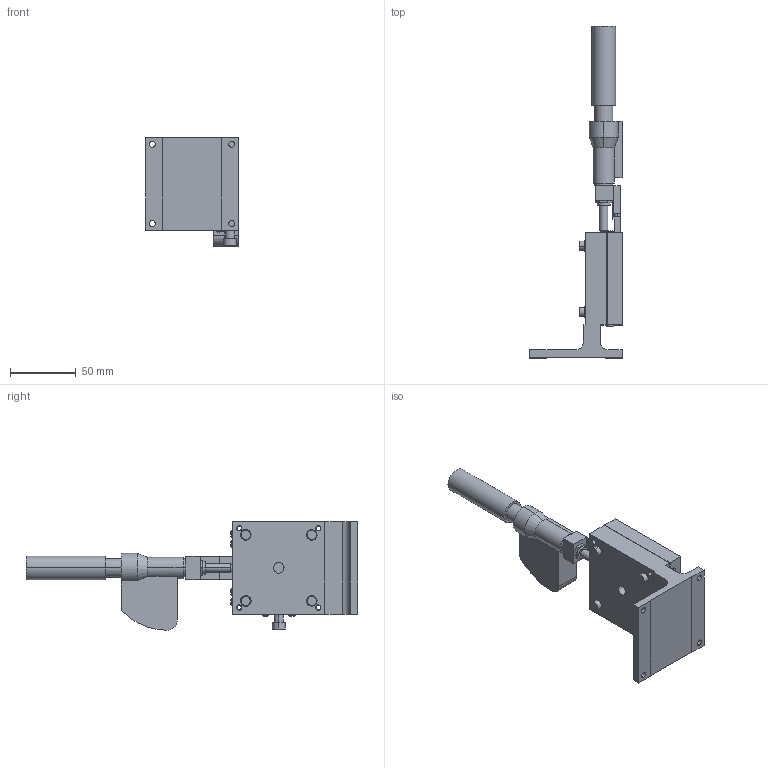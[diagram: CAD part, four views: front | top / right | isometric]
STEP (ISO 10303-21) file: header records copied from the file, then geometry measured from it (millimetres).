
FILE_DESCRIPTION (( 'STEP AP214' ), '1' );
FILE_NAME ('LZ‐7041‐CR7.STEP', '2007-08-30T11:23:50', ( '' ), ( '' ), 'SwSTEP 2.0', 'SolidWorks 2006303', '' );
FILE_SCHEMA (( 'AUTOMOTIVE_DESIGN' ));
Length unit declared in the file: millimetre
Products named in the file (3): LZ70B700‐2_ﾃﾞﾌｫﾙﾄ; LZ70B700‐1_ﾃﾞﾌｫﾙﾄ; LZ‐7041‐CR7
Assembly tree (2 placements, depth 2):
  LZ‐7041‐CR7
    LZ70B700‐2_ﾃﾞﾌｫﾙﾄ
    LZ70B700‐1_ﾃﾞﾌｫﾙﾄ
Bounding box: 70 x 251.5 x 82.21 mm (x, y, z)
Volume: 231039.4 mm3; surface area: 73488.6 mm2
Topology: 3 solids, 8 shells, 327 faces, 776 edges, 505 vertices
Faces by surface type: cylinder 146, plane 137, cone 22, sphere 22
Entity records: 9706 total; most frequent: DIRECTION 1819, CARTESIAN_POINT 1618, ORIENTED_EDGE 1552, EDGE_CURVE 776, AXIS2_PLACEMENT_3D 712, VERTEX_POINT 505, EDGE_LOOP 409, LINE 395
